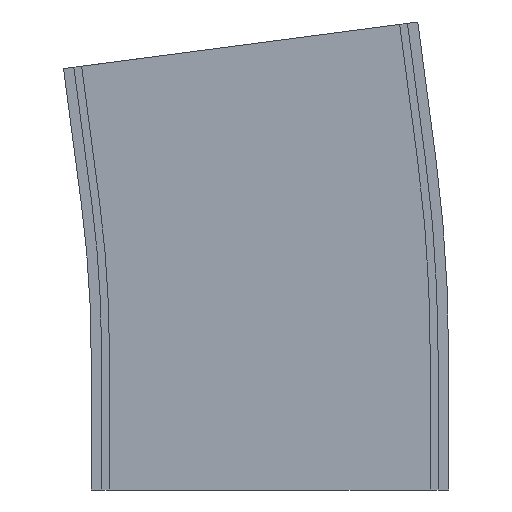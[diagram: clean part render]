
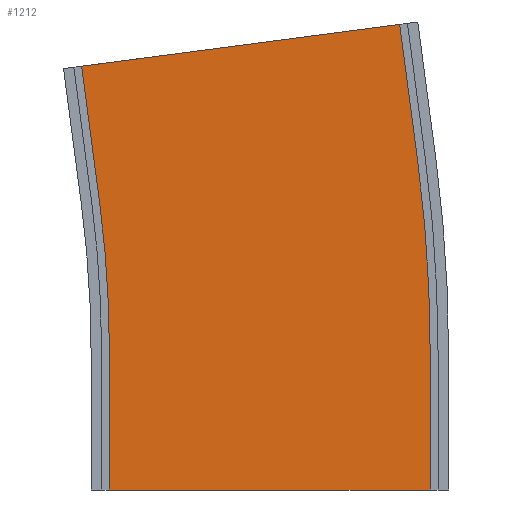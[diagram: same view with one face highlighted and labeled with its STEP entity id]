
A CAD part, left-side view. The second image highlights one B-rep face of the part: STEP entity #1212.
In plain terms, the highlighted planar face has unit normal (-1, 0, 0).
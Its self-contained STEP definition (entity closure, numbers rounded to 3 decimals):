
#42 = LINE ( 'NONE', #331, #1220 ) ;
#51 = LINE ( 'NONE', #586, #1144 ) ;
#76 = CARTESIAN_POINT ( 'NONE',  ( -249.5, 71.856, 161.819 ) ) ;
#85 = EDGE_CURVE ( 'NONE', #1348, #1292, #699, .T. ) ;
#94 = ORIENTED_EDGE ( 'NONE', *, *, #1266, .F. ) ;
#125 = VERTEX_POINT ( 'NONE', #1184 ) ;
#129 = VERTEX_POINT ( 'NONE', #881 ) ;
#133 = FACE_OUTER_BOUND ( 'NONE', #393, .T. ) ;
#138 = CIRCLE ( 'NONE', #768, 438.75 ) ;
#143 = ORIENTED_EDGE ( 'NONE', *, *, #1215, .T. ) ;
#198 = VECTOR ( 'NONE', #877, 1000. ) ;
#211 = VERTEX_POINT ( 'NONE', #875 ) ;
#215 = EDGE_CURVE ( 'NONE', #211, #927, #42, .T. ) ;
#331 = CARTESIAN_POINT ( 'NONE',  ( -249.5, 65.004, 109.768 ) ) ;
#346 = DIRECTION ( 'NONE',  ( -1., 0., 0. ) ) ;
#348 = CARTESIAN_POINT ( 'NONE',  ( -249.5, -61.25, 52.5 ) ) ;
#359 = ORIENTED_EDGE ( 'NONE', *, *, #708, .F. ) ;
#393 = EDGE_LOOP ( 'NONE', ( #143, #94, #1190, #1345, #1156, #874, #359, #1398 ) ) ;
#416 = CARTESIAN_POINT ( 'NONE',  ( -249.5, -61.25, 52.5 ) ) ;
#429 = DIRECTION ( 'NONE',  ( 0., 0., -1. ) ) ;
#453 = EDGE_CURVE ( 'NONE', #1323, #125, #492, .T. ) ;
#456 = DIRECTION ( 'NONE',  ( 0., 1., 0. ) ) ;
#478 = CARTESIAN_POINT ( 'NONE',  ( -249.5, -56.448, 125.758 ) ) ;
#492 = CIRCLE ( 'NONE', #725, 561.25 ) ;
#530 = LINE ( 'NONE', #760, #198 ) ;
#562 = CARTESIAN_POINT ( 'NONE',  ( -249.5, 61.25, 52.5 ) ) ;
#586 = CARTESIAN_POINT ( 'NONE',  ( -249.5, -61.25, 0. ) ) ;
#606 = CARTESIAN_POINT ( 'NONE',  ( -249.5, 500., 52.5 ) ) ;
#695 = DIRECTION ( 'NONE',  ( 0., -1., 0. ) ) ;
#699 = LINE ( 'NONE', #961, #911 ) ;
#708 = EDGE_CURVE ( 'NONE', #1348, #211, #138, .T. ) ;
#721 = AXIS2_PLACEMENT_3D ( 'NONE', #348, #1113, #456 ) ;
#725 = AXIS2_PLACEMENT_3D ( 'NONE', #1002, #346, #1023 ) ;
#726 = DIRECTION ( 'NONE',  ( -1., 0., 0. ) ) ;
#744 = DIRECTION ( 'NONE',  ( 0., 0., -1. ) ) ;
#760 = CARTESIAN_POINT ( 'NONE',  ( -249.5, -49.596, 177.809 ) ) ;
#768 = AXIS2_PLACEMENT_3D ( 'NONE', #606, #726, #937 ) ;
#834 = EDGE_CURVE ( 'NONE', #125, #129, #1251, .T. ) ;
#874 = ORIENTED_EDGE ( 'NONE', *, *, #215, .F. ) ;
#875 = CARTESIAN_POINT ( 'NONE',  ( -249.5, 65.004, 109.768 ) ) ;
#877 = DIRECTION ( 'NONE',  ( 0., -0.991, 0.131 ) ) ;
#880 = LINE ( 'NONE', #416, #1388 ) ;
#881 = CARTESIAN_POINT ( 'NONE',  ( -249.5, -49.596, 177.809 ) ) ;
#911 = VECTOR ( 'NONE', #744, 1000. ) ;
#927 = VERTEX_POINT ( 'NONE', #76 ) ;
#937 = DIRECTION ( 'NONE',  ( 0., 0., 1. ) ) ;
#961 = CARTESIAN_POINT ( 'NONE',  ( -249.5, 61.25, 52.5 ) ) ;
#1002 = CARTESIAN_POINT ( 'NONE',  ( -249.5, 500., 52.5 ) ) ;
#1005 = PLANE ( 'NONE',  #721 ) ;
#1023 = DIRECTION ( 'NONE',  ( 0., 0., 1. ) ) ;
#1025 = VECTOR ( 'NONE', #1131, 1000. ) ;
#1113 = DIRECTION ( 'NONE',  ( 1., 0., 0. ) ) ;
#1131 = DIRECTION ( 'NONE',  ( 0., 0.131, 0.991 ) ) ;
#1144 = VECTOR ( 'NONE', #695, 1000. ) ;
#1156 = ORIENTED_EDGE ( 'NONE', *, *, #1387, .F. ) ;
#1184 = CARTESIAN_POINT ( 'NONE',  ( -249.5, -56.448, 125.758 ) ) ;
#1188 = VERTEX_POINT ( 'NONE', #1349 ) ;
#1190 = ORIENTED_EDGE ( 'NONE', *, *, #453, .T. ) ;
#1195 = DIRECTION ( 'NONE',  ( 0., 0.131, 0.991 ) ) ;
#1212 = ADVANCED_FACE ( 'NONE', ( #133 ), #1005, .F. ) ;
#1215 = EDGE_CURVE ( 'NONE', #1292, #1188, #51, .T. ) ;
#1220 = VECTOR ( 'NONE', #1195, 1000. ) ;
#1251 = LINE ( 'NONE', #478, #1025 ) ;
#1266 = EDGE_CURVE ( 'NONE', #1323, #1188, #880, .T. ) ;
#1292 = VERTEX_POINT ( 'NONE', #1299 ) ;
#1299 = CARTESIAN_POINT ( 'NONE',  ( -249.5, 61.25, 0. ) ) ;
#1323 = VERTEX_POINT ( 'NONE', #1350 ) ;
#1345 = ORIENTED_EDGE ( 'NONE', *, *, #834, .T. ) ;
#1348 = VERTEX_POINT ( 'NONE', #562 ) ;
#1349 = CARTESIAN_POINT ( 'NONE',  ( -249.5, -61.25, 0. ) ) ;
#1350 = CARTESIAN_POINT ( 'NONE',  ( -249.5, -61.25, 52.5 ) ) ;
#1387 = EDGE_CURVE ( 'NONE', #927, #129, #530, .T. ) ;
#1388 = VECTOR ( 'NONE', #429, 1000. ) ;
#1398 = ORIENTED_EDGE ( 'NONE', *, *, #85, .T. ) ;
